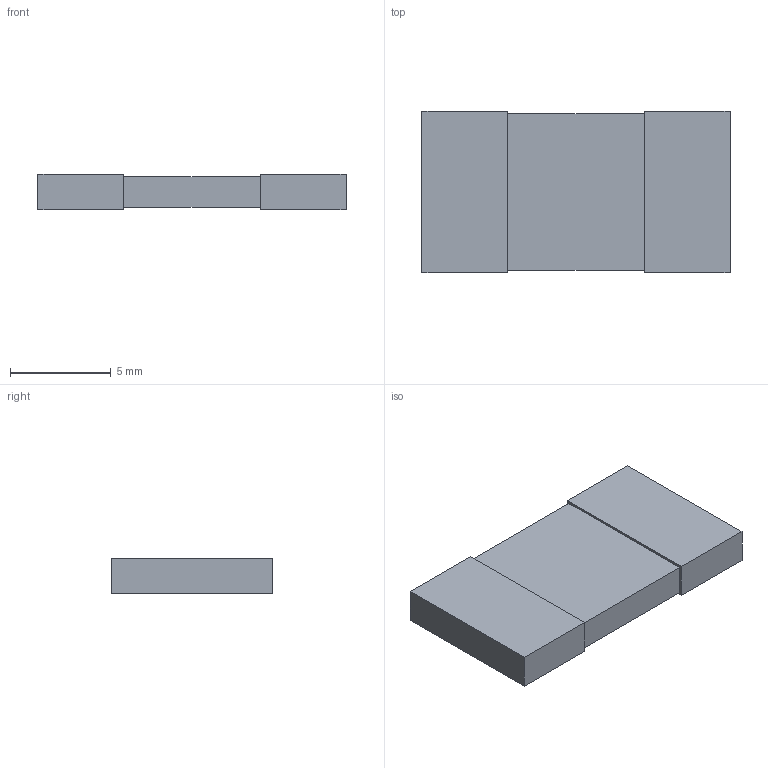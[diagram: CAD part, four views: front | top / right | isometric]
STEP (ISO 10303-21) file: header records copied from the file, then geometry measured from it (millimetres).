
FILE_DESCRIPTION(('STEP AP214'),'1');
FILE_NAME('W-5931_VIS','2026-08-04T08:35:01',(''),(''),'','','');
FILE_SCHEMA(('AUTOMOTIVE_DESIGN'));
Length unit declared in the file: millimetre
Products named in the file (1): product
Bounding box: 15.27 x 8 x 1.75 mm (x, y, z)
Volume: 199.3 mm3; surface area: 371.4 mm2
Topology: 3 solids, 3 shells, 18 faces, 36 edges, 24 vertices
Faces by surface type: plane 18
Entity records: 606 total; most frequent: DIRECTION 74, ORIENTED_EDGE 72, CARTESIAN_POINT 43, EDGE_CURVE 36, LINE 36, VECTOR 36, VERTEX_POINT 24, AXIS2_PLACEMENT_3D 19
